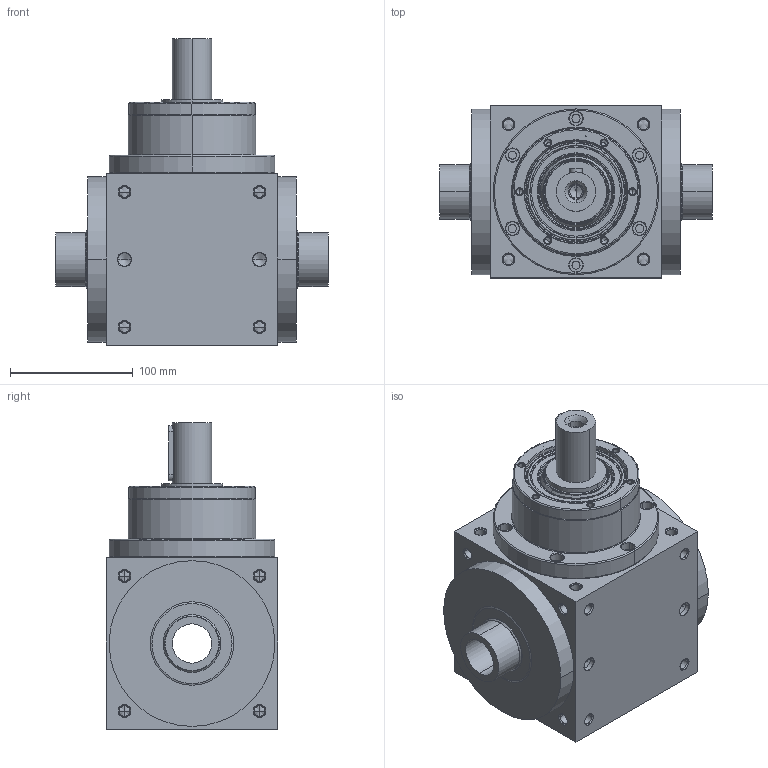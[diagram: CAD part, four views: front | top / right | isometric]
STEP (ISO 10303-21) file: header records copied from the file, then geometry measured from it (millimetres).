
FILE_DESCRIPTION((''),'2;1');
FILE_NAME('AT140C-1_ASM','2009-02-04T',('d00080'),(''),'PRO/ENGINEER BY PARAMETRIC TECHNOLOGY CORPORATION, 2006170','PRO/ENGINEER BY PARAMETRIC TECHNOLOGY CORPORATION, 2006170','');
FILE_SCHEMA(('CONFIG_CONTROL_DESIGN'));
Length unit declared in the file: millimetre
Products named in the file (6): AT140C-1; P1801600001; 22400071006; P1208600001; P0904601001; AT140C-1_ASM
Assembly tree (5 placements, depth 2):
  AT140C-1_ASM
    AT140C-1
    P1801600001
    22400071006
    P1208600001
    P0904601001
Bounding box: 222 x 140 x 250 mm (x, y, z)
Volume: 3438135.1 mm3; surface area: 291328.6 mm2
Topology: 6 solids, 38 shells, 615 faces, 1503 edges, 892 vertices
Faces by surface type: cylinder 274, cone 222, plane 79, torus 40
Entity records: 18616 total; most frequent: CARTESIAN_POINT 4045, DIRECTION 3287, ORIENTED_EDGE 2744, EDGE_CURVE 1435, AXIS2_PLACEMENT_3D 1386, VERTEX_POINT 892, CIRCLE 752, EDGE_LOOP 732
